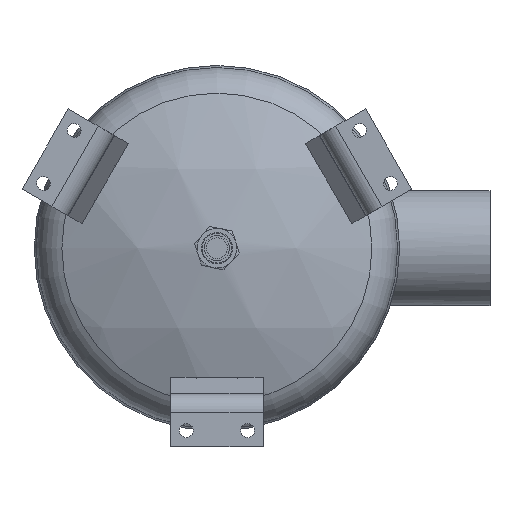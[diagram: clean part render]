
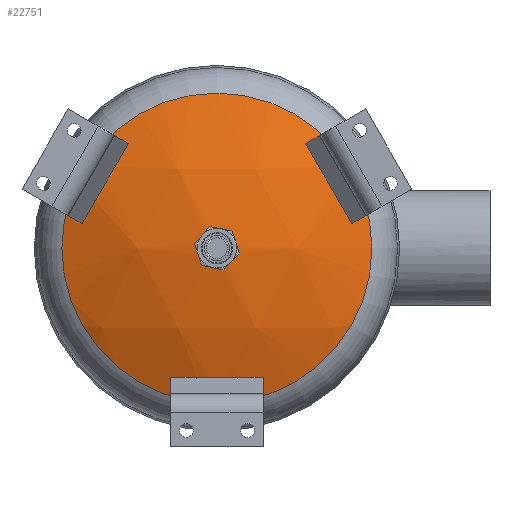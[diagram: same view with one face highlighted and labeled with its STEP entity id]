
A CAD part, front view. The second image highlights one B-rep face of the part: STEP entity #22751.
In plain terms, the highlighted spherical face has radius 279 mm.
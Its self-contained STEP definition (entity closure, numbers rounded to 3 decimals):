
#493=SPHERICAL_SURFACE('',#24502,279.);
#1338=FACE_BOUND('',#7593,.T.);
#1339=FACE_BOUND('',#7594,.T.);
#1340=FACE_BOUND('',#7595,.T.);
#1341=FACE_BOUND('',#7596,.T.);
#6162=FACE_OUTER_BOUND('',#7592,.T.);
#7592=EDGE_LOOP('',(#16552));
#7593=EDGE_LOOP('',(#16553,#16554,#16555,#16556));
#7594=EDGE_LOOP('',(#16557,#16558,#16559,#16560));
#7595=EDGE_LOOP('',(#16561,#16562,#16563,#16564));
#7596=EDGE_LOOP('',(#16565));
#9130=CIRCLE('',#24444,11.25);
#9155=CIRCLE('',#24503,117.235);
#9156=CIRCLE('',#24504,278.902);
#9157=CIRCLE('',#24505,16.588);
#9158=CIRCLE('',#24506,278.999);
#9159=CIRCLE('',#24507,16.588);
#9160=CIRCLE('',#24508,278.902);
#9161=CIRCLE('',#24509,16.588);
#9162=CIRCLE('',#24510,278.999);
#9163=CIRCLE('',#24511,16.588);
#9164=CIRCLE('',#24512,278.902);
#9165=CIRCLE('',#24513,16.588);
#9166=CIRCLE('',#24514,278.999);
#9167=CIRCLE('',#24515,16.588);
#10458=VERTEX_POINT('',#37170);
#10505=VERTEX_POINT('',#37460);
#10506=VERTEX_POINT('',#37462);
#10507=VERTEX_POINT('',#37463);
#10508=VERTEX_POINT('',#37465);
#10509=VERTEX_POINT('',#37467);
#10510=VERTEX_POINT('',#37470);
#10511=VERTEX_POINT('',#37471);
#10512=VERTEX_POINT('',#37473);
#10513=VERTEX_POINT('',#37475);
#10514=VERTEX_POINT('',#37478);
#10515=VERTEX_POINT('',#37479);
#10516=VERTEX_POINT('',#37481);
#10517=VERTEX_POINT('',#37483);
#12853=EDGE_CURVE('',#10458,#10458,#9130,.T.);
#12918=EDGE_CURVE('',#10505,#10505,#9155,.T.);
#12919=EDGE_CURVE('',#10506,#10507,#9156,.T.);
#12920=EDGE_CURVE('',#10507,#10508,#9157,.T.);
#12921=EDGE_CURVE('',#10508,#10509,#9158,.T.);
#12922=EDGE_CURVE('',#10509,#10506,#9159,.T.);
#12923=EDGE_CURVE('',#10510,#10511,#9160,.T.);
#12924=EDGE_CURVE('',#10511,#10512,#9161,.T.);
#12925=EDGE_CURVE('',#10512,#10513,#9162,.T.);
#12926=EDGE_CURVE('',#10513,#10510,#9163,.T.);
#12927=EDGE_CURVE('',#10514,#10515,#9164,.T.);
#12928=EDGE_CURVE('',#10515,#10516,#9165,.T.);
#12929=EDGE_CURVE('',#10516,#10517,#9166,.T.);
#12930=EDGE_CURVE('',#10517,#10514,#9167,.T.);
#16552=ORIENTED_EDGE('',*,*,#12918,.T.);
#16553=ORIENTED_EDGE('',*,*,#12919,.T.);
#16554=ORIENTED_EDGE('',*,*,#12920,.T.);
#16555=ORIENTED_EDGE('',*,*,#12921,.T.);
#16556=ORIENTED_EDGE('',*,*,#12922,.T.);
#16557=ORIENTED_EDGE('',*,*,#12923,.T.);
#16558=ORIENTED_EDGE('',*,*,#12924,.T.);
#16559=ORIENTED_EDGE('',*,*,#12925,.T.);
#16560=ORIENTED_EDGE('',*,*,#12926,.T.);
#16561=ORIENTED_EDGE('',*,*,#12927,.T.);
#16562=ORIENTED_EDGE('',*,*,#12928,.T.);
#16563=ORIENTED_EDGE('',*,*,#12929,.T.);
#16564=ORIENTED_EDGE('',*,*,#12930,.T.);
#16565=ORIENTED_EDGE('',*,*,#12853,.T.);
#22751=ADVANCED_FACE('',(#6162,#1338,#1339,#1340,#1341),#493,.T.);
#24444=AXIS2_PLACEMENT_3D('',#37171,#26863,#26864);
#24502=AXIS2_PLACEMENT_3D('',#37459,#26985,#26986);
#24503=AXIS2_PLACEMENT_3D('',#37461,#26987,#26988);
#24504=AXIS2_PLACEMENT_3D('',#37464,#26989,#26990);
#24505=AXIS2_PLACEMENT_3D('',#37466,#26991,#26992);
#24506=AXIS2_PLACEMENT_3D('',#37468,#26993,#26994);
#24507=AXIS2_PLACEMENT_3D('',#37469,#26995,#26996);
#24508=AXIS2_PLACEMENT_3D('',#37472,#26997,#26998);
#24509=AXIS2_PLACEMENT_3D('',#37474,#26999,#27000);
#24510=AXIS2_PLACEMENT_3D('',#37476,#27001,#27002);
#24511=AXIS2_PLACEMENT_3D('',#37477,#27003,#27004);
#24512=AXIS2_PLACEMENT_3D('',#37480,#27005,#27006);
#24513=AXIS2_PLACEMENT_3D('',#37482,#27007,#27008);
#24514=AXIS2_PLACEMENT_3D('',#37484,#27009,#27010);
#24515=AXIS2_PLACEMENT_3D('',#37485,#27011,#27012);
#26863=DIRECTION('center_axis',(0.,1.,0.));
#26864=DIRECTION('ref_axis',(1.,0.,0.));
#26985=DIRECTION('center_axis',(0.,0.,
-1.));
#26986=DIRECTION('ref_axis',(-1.,0.,0.));
#26987=DIRECTION('center_axis',(0.,-1.,0.));
#26988=DIRECTION('ref_axis',(-1.,0.,0.));
#26989=DIRECTION('center_axis',(-0.803,-0.375,-0.464));
#26990=DIRECTION('ref_axis',(0.,-0.778,0.629));
#26991=DIRECTION('center_axis',(-0.324,0.927,-0.187));
#26992=DIRECTION('ref_axis',(0.,-0.198,-0.98));
#26993=DIRECTION('center_axis',(0.803,0.375,0.464));
#26994=DIRECTION('ref_axis',(0.,0.778,-0.629));
#26995=DIRECTION('center_axis',(-0.324,0.927,-0.187));
#26996=DIRECTION('ref_axis',(0.,-0.198,-0.98));
#26997=DIRECTION('center_axis',(0.803,-0.375,-0.464));
#26998=DIRECTION('ref_axis',(0.,-0.778,0.629));
#26999=DIRECTION('center_axis',(0.324,0.927,-0.187));
#27000=DIRECTION('ref_axis',(0.,-0.198,-0.98));
#27001=DIRECTION('center_axis',(-0.803,0.375,0.464));
#27002=DIRECTION('ref_axis',(0.,0.778,-0.629));
#27003=DIRECTION('center_axis',(0.324,0.927,-0.187));
#27004=DIRECTION('ref_axis',(0.,-0.198,-0.98));
#27005=DIRECTION('center_axis',(0.,-0.375,
0.927));
#27006=DIRECTION('ref_axis',(0.,0.927,0.375));
#27007=DIRECTION('center_axis',(0.,0.927,
0.375));
#27008=DIRECTION('ref_axis',(0.,0.375,-0.927));
#27009=DIRECTION('center_axis',(0.,0.375,
-0.927));
#27010=DIRECTION('ref_axis',(0.,-0.927,-0.375));
#27011=DIRECTION('center_axis',(0.,0.927,
0.375));
#27012=DIRECTION('ref_axis',(0.,0.375,-0.927));
#37170=CARTESIAN_POINT('',(-11.25,-88.139,0.));
#37171=CARTESIAN_POINT('Origin',(0.,-88.139,
0.));
#37459=CARTESIAN_POINT('Origin',(0.,190.634,
0.));
#37460=CARTESIAN_POINT('',(-117.235,-62.54,0.));
#37461=CARTESIAN_POINT('Origin',(0.,-62.54,
0.));
#37462=CARTESIAN_POINT('',(91.839,-70.363,35.878));
#37463=CARTESIAN_POINT('',(76.991,-70.363,61.596));
#37464=CARTESIAN_POINT('Origin',(-5.938,187.864,-3.428));
#37465=CARTESIAN_POINT('',(82.55,-67.366,66.802));
#37466=CARTESIAN_POINT('Origin',(90.353,-67.593,52.165));
#37467=CARTESIAN_POINT('',(99.127,-67.366,38.09));
#37468=CARTESIAN_POINT('Origin',(0.486,190.861,0.281));
#37469=CARTESIAN_POINT('Origin',(90.353,-67.593,52.165));
#37470=CARTESIAN_POINT('',(-76.991,-70.363,61.596));
#37471=CARTESIAN_POINT('',(-91.839,-70.363,35.878));
#37472=CARTESIAN_POINT('Origin',(5.938,187.864,-3.428));
#37473=CARTESIAN_POINT('',(-99.127,-67.366,38.09));
#37474=CARTESIAN_POINT('Origin',(-90.353,-67.593,52.165));
#37475=CARTESIAN_POINT('',(-82.55,-67.366,66.802));
#37476=CARTESIAN_POINT('Origin',(-0.486,190.861,0.281));
#37477=CARTESIAN_POINT('Origin',(-90.353,-67.593,52.165));
#37478=CARTESIAN_POINT('',(-14.849,-70.363,-97.474));
#37479=CARTESIAN_POINT('',(14.849,-70.363,-97.474));
#37480=CARTESIAN_POINT('Origin',(0.,187.864,
6.856));
#37481=CARTESIAN_POINT('',(16.577,-67.366,-104.891));
#37482=CARTESIAN_POINT('Origin',(0.,-67.593,
-104.33));
#37483=CARTESIAN_POINT('',(-16.577,-67.366,-104.891));
#37484=CARTESIAN_POINT('Origin',(0.,190.861,
-0.561));
#37485=CARTESIAN_POINT('Origin',(0.,-67.593,
-104.33));
